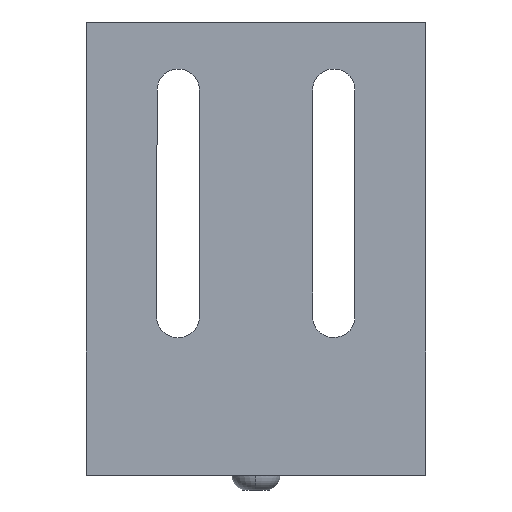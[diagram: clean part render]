
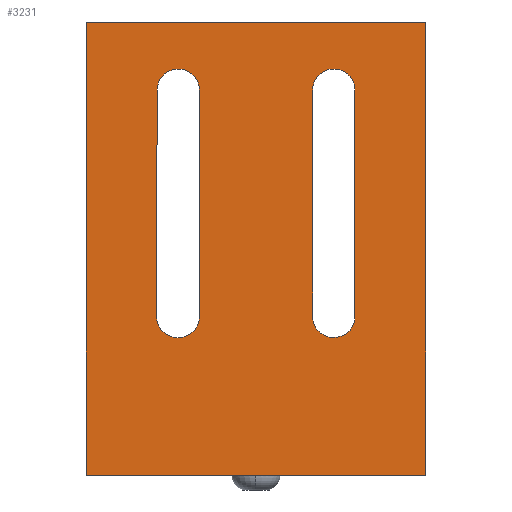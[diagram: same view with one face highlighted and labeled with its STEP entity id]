
A CAD part, front view. The second image highlights one B-rep face of the part: STEP entity #3231.
In plain terms, the highlighted planar face has unit normal (0, -1, 0).
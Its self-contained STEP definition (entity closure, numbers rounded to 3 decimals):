
#111 = CARTESIAN_POINT ( 'NONE',  ( 752.32, 53.552, 86.456 ) ) ;
#134 = DIRECTION ( 'NONE',  ( 0., 0., -1. ) ) ;
#135 = VECTOR ( 'NONE', #134, 1000. ) ;
#136 = CARTESIAN_POINT ( 'NONE',  ( 752.32, 53.552, 86.456 ) ) ;
#137 = LINE ( 'NONE', #136, #135 ) ;
#138 = DIRECTION ( 'NONE',  ( 0., 0., -1. ) ) ;
#139 = DIRECTION ( 'NONE',  ( 0., -1., 0. ) ) ;
#140 = CARTESIAN_POINT ( 'NONE',  ( 757.069, 53.552, 35.656 ) ) ;
#141 = AXIS2_PLACEMENT_3D ( 'NONE', #140, #139, #138 ) ;
#142 = CIRCLE ( 'NONE', #141, 4.776 ) ;
#171 = DIRECTION ( 'NONE',  ( 0., 0., 1. ) ) ;
#172 = VECTOR ( 'NONE', #171, 1000. ) ;
#173 = CARTESIAN_POINT ( 'NONE',  ( 761.845, 53.552, 86.456 ) ) ;
#174 = LINE ( 'NONE', #173, #172 ) ;
#474 = FACE_BOUND ( 'NONE', #3232, .T. ) ;
#518 = CARTESIAN_POINT ( 'NONE',  ( 761.845, 53.552, 86.456 ) ) ;
#519 = DIRECTION ( 'NONE',  ( 0., 0., -1. ) ) ;
#520 = DIRECTION ( 'NONE',  ( 0., -1., 0. ) ) ;
#521 = CARTESIAN_POINT ( 'NONE',  ( 757.082, 53.552, 86.456 ) ) ;
#522 = AXIS2_PLACEMENT_3D ( 'NONE', #521, #520, #519 ) ;
#523 = CIRCLE ( 'NONE', #522, 4.763 ) ;
#524 = CARTESIAN_POINT ( 'NONE',  ( 752.32, 53.552, 36.165 ) ) ;
#525 = DIRECTION ( 'NONE',  ( 0., 0., 1. ) ) ;
#526 = DIRECTION ( 'NONE',  ( 0., 1., 0. ) ) ;
#527 = AXIS2_PLACEMENT_3D ( 'NONE', #528, #526, #525 ) ;
#528 = CARTESIAN_POINT ( 'NONE',  ( 777.707, 53.552, 0. ) ) ;
#529 = PLANE ( 'NONE',  #527 ) ;
#530 = FACE_OUTER_BOUND ( 'NONE', #1426, .T. ) ;
#531 = FACE_BOUND ( 'NONE', #943, .T. ) ;
#943 = EDGE_LOOP ( 'NONE', ( #1421, #1411, #1404, #1424, #1427 ) ) ;
#1399 = ORIENTED_EDGE ( 'NONE', *, *, #2088, .T. ) ;
#1404 = ORIENTED_EDGE ( 'NONE', *, *, #1464, .F. ) ;
#1411 = ORIENTED_EDGE ( 'NONE', *, *, #1463, .F. ) ;
#1418 = ORIENTED_EDGE ( 'NONE', *, *, #1430, .F. ) ;
#1420 = VERTEX_POINT ( 'NONE', #2532 ) ;
#1421 = ORIENTED_EDGE ( 'NONE', *, *, #1453, .F. ) ;
#1424 = ORIENTED_EDGE ( 'NONE', *, *, #1641, .F. ) ;
#1425 = VERTEX_POINT ( 'NONE', #2531 ) ;
#1426 = EDGE_LOOP ( 'NONE', ( #1429, #1418, #1399, #1458 ) ) ;
#1427 = ORIENTED_EDGE ( 'NONE', *, *, #1449, .F. ) ;
#1429 = ORIENTED_EDGE ( 'NONE', *, *, #1432, .T. ) ;
#1430 = EDGE_CURVE ( 'NONE', #1732, #1455, #2530, .T. ) ;
#1432 = EDGE_CURVE ( 'NONE', #1703, #1455, #2591, .T. ) ;
#1440 = VERTEX_POINT ( 'NONE', #2572 ) ;
#1449 = EDGE_CURVE ( 'NONE', #1420, #1639, #2895, .T. ) ;
#1453 = EDGE_CURVE ( 'NONE', #1425, #1420, #2880, .T. ) ;
#1455 = VERTEX_POINT ( 'NONE', #2876 ) ;
#1458 = ORIENTED_EDGE ( 'NONE', *, *, #1743, .T. ) ;
#1463 = EDGE_CURVE ( 'NONE', #1440, #1425, #2928, .T. ) ;
#1464 = EDGE_CURVE ( 'NONE', #1640, #1440, #2923, .T. ) ;
#1639 = VERTEX_POINT ( 'NONE', #3527 ) ;
#1640 = VERTEX_POINT ( 'NONE', #3526 ) ;
#1641 = EDGE_CURVE ( 'NONE', #1639, #1640, #3524, .T. ) ;
#1646 = VERTEX_POINT ( 'NONE', #3514 ) ;
#1654 = EDGE_CURVE ( 'NONE', #1646, #1655, #3502, .T. ) ;
#1655 = VERTEX_POINT ( 'NONE', #3561 ) ;
#1703 = VERTEX_POINT ( 'NONE', #3600 ) ;
#1732 = VERTEX_POINT ( 'NONE', #3960 ) ;
#1743 = EDGE_CURVE ( 'NONE', #2082, #1703, #4003, .T. ) ;
#2082 = VERTEX_POINT ( 'NONE', #4041 ) ;
#2088 = EDGE_CURVE ( 'NONE', #1732, #2082, #4089, .T. ) ;
#2530 = LINE ( 'NONE', #2594, #2593 ) ;
#2531 = CARTESIAN_POINT ( 'NONE',  ( 717.395, 53.552, 86.467 ) ) ;
#2532 = CARTESIAN_POINT ( 'NONE',  ( 717.282, 53.552, 35.667 ) ) ;
#2572 = CARTESIAN_POINT ( 'NONE',  ( 726.92, 53.552, 86.456 ) ) ;
#2588 = DIRECTION ( 'NONE',  ( 0., 0., 1. ) ) ;
#2589 = VECTOR ( 'NONE', #2588, 1000. ) ;
#2590 = CARTESIAN_POINT ( 'NONE',  ( 777.707, 53.552, 9.525 ) ) ;
#2591 = LINE ( 'NONE', #2590, #2589 ) ;
#2592 = DIRECTION ( 'NONE',  ( 1., 0., 0. ) ) ;
#2593 = VECTOR ( 'NONE', #2592, 1000. ) ;
#2594 = CARTESIAN_POINT ( 'NONE',  ( 701.507, 53.552, 101.6 ) ) ;
#2796 = ORIENTED_EDGE ( 'NONE', *, *, #2812, .F. ) ;
#2797 = ORIENTED_EDGE ( 'NONE', *, *, #1654, .F. ) ;
#2798 = VERTEX_POINT ( 'NONE', #111 ) ;
#2812 = EDGE_CURVE ( 'NONE', #3236, #1646, #142, .T. ) ;
#2816 = EDGE_CURVE ( 'NONE', #2798, #3236, #137, .T. ) ;
#2829 = ORIENTED_EDGE ( 'NONE', *, *, #2830, .F. ) ;
#2830 = EDGE_CURVE ( 'NONE', #1655, #3239, #174, .T. ) ;
#2876 = CARTESIAN_POINT ( 'NONE',  ( 777.707, 53.552, 101.6 ) ) ;
#2877 = DIRECTION ( 'NONE',  ( -0.002, 0., -1. ) ) ;
#2878 = VECTOR ( 'NONE', #2877, 1000. ) ;
#2879 = CARTESIAN_POINT ( 'NONE',  ( 717.395, 53.552, 86.467 ) ) ;
#2880 = LINE ( 'NONE', #2879, #2878 ) ;
#2891 = DIRECTION ( 'NONE',  ( 0., 0., -1. ) ) ;
#2892 = DIRECTION ( 'NONE',  ( 0., -1., 0. ) ) ;
#2893 = CARTESIAN_POINT ( 'NONE',  ( 722.101, 53.552, 35.656 ) ) ;
#2894 = AXIS2_PLACEMENT_3D ( 'NONE', #2893, #2892, #2891 ) ;
#2895 = CIRCLE ( 'NONE', #2894, 4.819 ) ;
#2920 = DIRECTION ( 'NONE',  ( 0., 0., 1. ) ) ;
#2921 = VECTOR ( 'NONE', #2920, 1000. ) ;
#2922 = CARTESIAN_POINT ( 'NONE',  ( 726.92, 53.552, 35.656 ) ) ;
#2923 = LINE ( 'NONE', #2922, #2921 ) ;
#2924 = DIRECTION ( 'NONE',  ( 0., 0., -1. ) ) ;
#2925 = DIRECTION ( 'NONE',  ( 0., -1., 0. ) ) ;
#2926 = CARTESIAN_POINT ( 'NONE',  ( 722.157, 53.552, 86.456 ) ) ;
#2927 = AXIS2_PLACEMENT_3D ( 'NONE', #2926, #2925, #2924 ) ;
#2928 = CIRCLE ( 'NONE', #2927, 4.763 ) ;
#3231 = ADVANCED_FACE ( 'NONE', ( #474, #531, #530 ), #529, .F. ) ;
#3232 = EDGE_LOOP ( 'NONE', ( #3235, #3237, #2829, #2797, #2796 ) ) ;
#3235 = ORIENTED_EDGE ( 'NONE', *, *, #2816, .F. ) ;
#3236 = VERTEX_POINT ( 'NONE', #524 ) ;
#3237 = ORIENTED_EDGE ( 'NONE', *, *, #3238, .F. ) ;
#3238 = EDGE_CURVE ( 'NONE', #3239, #2798, #523, .T. ) ;
#3239 = VERTEX_POINT ( 'NONE', #518 ) ;
#3502 = CIRCLE ( 'NONE', #3565, 4.776 ) ;
#3514 = CARTESIAN_POINT ( 'NONE',  ( 757.069, 53.552, 30.88 ) ) ;
#3520 = DIRECTION ( 'NONE',  ( 0., 0., -1. ) ) ;
#3521 = DIRECTION ( 'NONE',  ( 0., -1., 0. ) ) ;
#3522 = CARTESIAN_POINT ( 'NONE',  ( 722.101, 53.552, 35.656 ) ) ;
#3523 = AXIS2_PLACEMENT_3D ( 'NONE', #3522, #3521, #3520 ) ;
#3524 = CIRCLE ( 'NONE', #3523, 4.819 ) ;
#3526 = CARTESIAN_POINT ( 'NONE',  ( 726.92, 53.552, 35.656 ) ) ;
#3527 = CARTESIAN_POINT ( 'NONE',  ( 722.101, 53.552, 30.837 ) ) ;
#3561 = CARTESIAN_POINT ( 'NONE',  ( 761.845, 53.552, 35.656 ) ) ;
#3562 = DIRECTION ( 'NONE',  ( 0., 0., -1. ) ) ;
#3563 = DIRECTION ( 'NONE',  ( 0., -1., 0. ) ) ;
#3564 = CARTESIAN_POINT ( 'NONE',  ( 757.069, 53.552, 35.656 ) ) ;
#3565 = AXIS2_PLACEMENT_3D ( 'NONE', #3564, #3563, #3562 ) ;
#3600 = CARTESIAN_POINT ( 'NONE',  ( 777.707, 53.552, 0. ) ) ;
#3960 = CARTESIAN_POINT ( 'NONE',  ( 701.507, 53.552, 101.6 ) ) ;
#4000 = DIRECTION ( 'NONE',  ( 1., 0., 0. ) ) ;
#4001 = VECTOR ( 'NONE', #4000, 1000. ) ;
#4002 = CARTESIAN_POINT ( 'NONE',  ( 777.707, 53.552, 0. ) ) ;
#4003 = LINE ( 'NONE', #4002, #4001 ) ;
#4041 = CARTESIAN_POINT ( 'NONE',  ( 701.507, 53.552, 0. ) ) ;
#4086 = DIRECTION ( 'NONE',  ( 0., 0., -1. ) ) ;
#4087 = VECTOR ( 'NONE', #4086, 1000. ) ;
#4088 = CARTESIAN_POINT ( 'NONE',  ( 701.507, 53.552, 9.525 ) ) ;
#4089 = LINE ( 'NONE', #4088, #4087 ) ;
